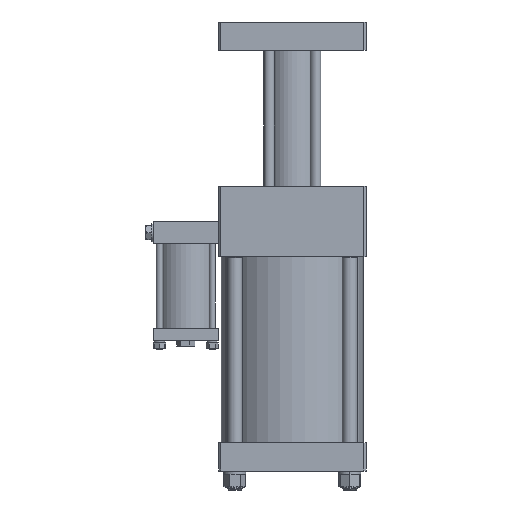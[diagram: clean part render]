
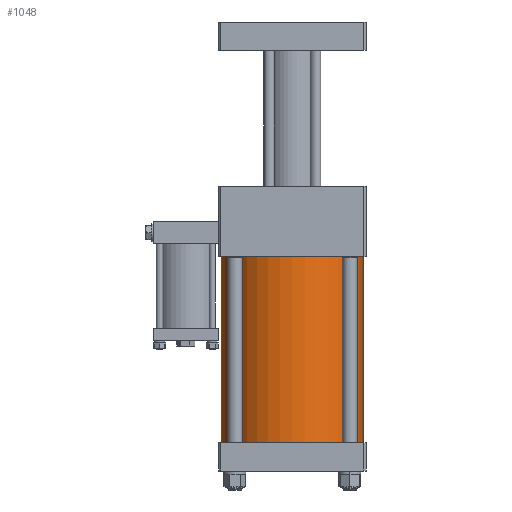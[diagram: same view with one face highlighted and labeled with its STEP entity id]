
A CAD part, front view. The second image highlights one B-rep face of the part: STEP entity #1048.
In plain terms, the highlighted cylindrical face has radius 67.5 mm (diameter 135 mm), a partial arc.
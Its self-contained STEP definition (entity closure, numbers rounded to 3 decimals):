
#33 = DIRECTION ( 'NONE',  ( 1., 0., 0. ) ) ;
#83 = EDGE_CURVE ( 'NONE', #11170, #2712, #1774, .T. ) ;
#583 = DIRECTION ( 'NONE',  ( 0., 0., 1. ) ) ;
#804 = CARTESIAN_POINT ( 'NONE',  ( 0., 0., -372. ) ) ;
#1048 = ADVANCED_FACE ( 'NONE', ( #3532 ), #10615, .T. ) ;
#1448 = CARTESIAN_POINT ( 'NONE',  ( 0., 0., -372. ) ) ;
#1774 = CIRCLE ( 'NONE', #3070, 67.5 ) ;
#2520 = CARTESIAN_POINT ( 'NONE',  ( -67.5, 0., -195.5 ) ) ;
#2712 = VERTEX_POINT ( 'NONE', #5512 ) ;
#3070 = AXIS2_PLACEMENT_3D ( 'NONE', #1448, #11552, #11556 ) ;
#3386 = AXIS2_PLACEMENT_3D ( 'NONE', #804, #10829, #10362 ) ;
#3532 = FACE_OUTER_BOUND ( 'NONE', #5033, .T. ) ;
#3574 = LINE ( 'NONE', #5430, #10961 ) ;
#4505 = CARTESIAN_POINT ( 'NONE',  ( 67.5, 0., -195.5 ) ) ;
#4794 = VERTEX_POINT ( 'NONE', #4505 ) ;
#5033 = EDGE_LOOP ( 'NONE', ( #7800, #10206, #10075, #12352 ) ) ;
#5430 = CARTESIAN_POINT ( 'NONE',  ( 67.5, 0., -372. ) ) ;
#5512 = CARTESIAN_POINT ( 'NONE',  ( -67.5, 0., -372. ) ) ;
#5773 = DIRECTION ( 'NONE',  ( 0., 0., 1. ) ) ;
#6124 = EDGE_CURVE ( 'NONE', #11170, #4794, #3574, .T. ) ;
#6371 = EDGE_CURVE ( 'NONE', #10359, #4794, #8824, .T. ) ;
#7101 = LINE ( 'NONE', #8565, #12271 ) ;
#7800 = ORIENTED_EDGE ( 'NONE', *, *, #10574, .F. ) ;
#8565 = CARTESIAN_POINT ( 'NONE',  ( -67.5, 0., -372. ) ) ;
#8824 = CIRCLE ( 'NONE', #11685, 67.5 ) ;
#9266 = CARTESIAN_POINT ( 'NONE',  ( 67.5, 0., -372. ) ) ;
#9545 = DIRECTION ( 'NONE',  ( 0., 0., 1. ) ) ;
#10075 = ORIENTED_EDGE ( 'NONE', *, *, #6124, .T. ) ;
#10206 = ORIENTED_EDGE ( 'NONE', *, *, #83, .F. ) ;
#10359 = VERTEX_POINT ( 'NONE', #2520 ) ;
#10362 = DIRECTION ( 'NONE',  ( 1., 0., 0. ) ) ;
#10574 = EDGE_CURVE ( 'NONE', #2712, #10359, #7101, .T. ) ;
#10615 = CYLINDRICAL_SURFACE ( 'NONE', #3386, 67.5 ) ;
#10829 = DIRECTION ( 'NONE',  ( 0., 0., 1. ) ) ;
#10961 = VECTOR ( 'NONE', #583, 1000. ) ;
#11170 = VERTEX_POINT ( 'NONE', #9266 ) ;
#11552 = DIRECTION ( 'NONE',  ( 0., 0., -1. ) ) ;
#11556 = DIRECTION ( 'NONE',  ( 1., 0., 0. ) ) ;
#11560 = CARTESIAN_POINT ( 'NONE',  ( 0., 0., -195.5 ) ) ;
#11685 = AXIS2_PLACEMENT_3D ( 'NONE', #11560, #5773, #33 ) ;
#12271 = VECTOR ( 'NONE', #9545, 1000. ) ;
#12352 = ORIENTED_EDGE ( 'NONE', *, *, #6371, .F. ) ;
